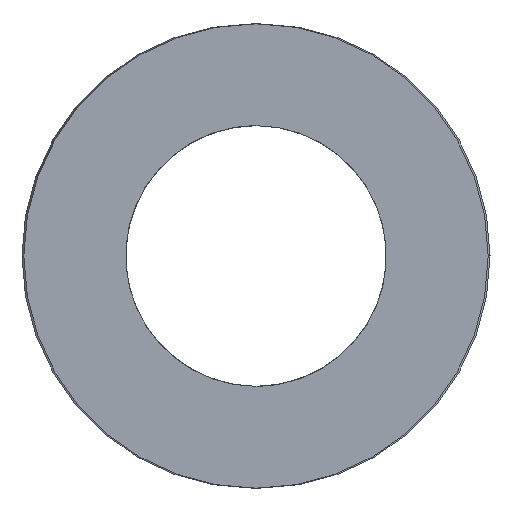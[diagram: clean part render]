
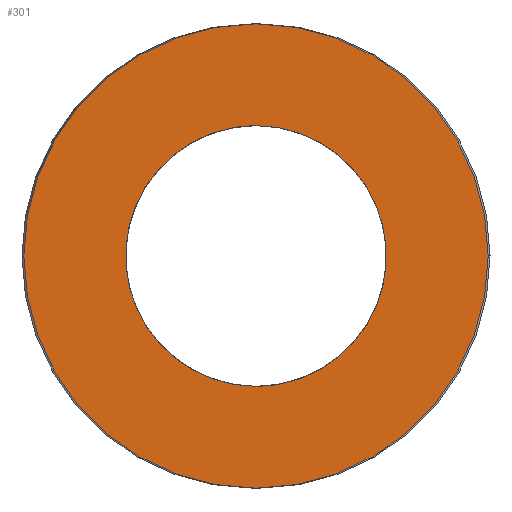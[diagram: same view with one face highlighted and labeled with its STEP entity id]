
A CAD part, left-side view. The second image highlights one B-rep face of the part: STEP entity #301.
In plain terms, the highlighted planar face has unit normal (-1, 0, 0).
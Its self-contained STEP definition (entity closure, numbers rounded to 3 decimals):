
#63=CARTESIAN_POINT('Vertex',(0.,15.5,0.)) ;
#77=CARTESIAN_POINT('Vertex',(0.,-15.5,0.)) ;
#80=CARTESIAN_POINT('Axis2P3D Location',(0.,0.,0.)) ;
#97=CARTESIAN_POINT('Axis2P3D Location',(0.,0.,0.)) ;
#232=CARTESIAN_POINT('Axis2P3D Location',(0.,7.75,0.)) ;
#242=CARTESIAN_POINT('Control Point',(0.,0.,-8.7)) ;
#243=CARTESIAN_POINT('Control Point',(0.,0.867,-8.7)) ;
#244=CARTESIAN_POINT('Control Point',(0.,1.734,-8.592)) ;
#245=CARTESIAN_POINT('Control Point',(0.,2.583,-8.376)) ;
#246=CARTESIAN_POINT('Control Point',(0.,4.209,-7.737)) ;
#247=CARTESIAN_POINT('Control Point',(0.,5.629,-6.719)) ;
#248=CARTESIAN_POINT('Control Point',(0.,6.272,-6.123)) ;
#249=CARTESIAN_POINT('Control Point',(0.,7.395,-4.785)) ;
#250=CARTESIAN_POINT('Control Point',(0.,8.156,-3.211)) ;
#251=CARTESIAN_POINT('Control Point',(0.,8.436,-2.381)) ;
#252=CARTESIAN_POINT('Control Point',(0.,8.783,-0.669)) ;
#253=CARTESIAN_POINT('Control Point',(0.,8.699,1.077)) ;
#254=CARTESIAN_POINT('Control Point',(0.,8.548,1.94)) ;
#255=CARTESIAN_POINT('Control Point',(0.,8.034,3.61)) ;
#256=CARTESIAN_POINT('Control Point',(0.,7.127,5.103)) ;
#257=CARTESIAN_POINT('Control Point',(0.,6.581,5.789)) ;
#258=CARTESIAN_POINT('Control Point',(0.,5.332,7.011)) ;
#259=CARTESIAN_POINT('Control Point',(0.,3.821,7.888)) ;
#260=CARTESIAN_POINT('Control Point',(0.,3.015,8.231)) ;
#261=CARTESIAN_POINT('Control Point',(0.,1.918,8.541)) ;
#262=CARTESIAN_POINT('Control Point',(0.,0.793,8.67)) ;
#263=CARTESIAN_POINT('Control Point',(0.,0.529,8.69)) ;
#264=CARTESIAN_POINT('Control Point',(0.,0.264,8.7)) ;
#265=CARTESIAN_POINT('Control Point',(0.,0.,8.7)) ;
#266=CARTESIAN_POINT('Vertex',(0.,0.,-8.7)) ;
#268=CARTESIAN_POINT('Vertex',(0.,0.,8.7)) ;
#272=CARTESIAN_POINT('Control Point',(0.,0.,8.7)) ;
#273=CARTESIAN_POINT('Control Point',(0.,-0.867,8.7)) ;
#274=CARTESIAN_POINT('Control Point',(0.,-1.734,8.592)) ;
#275=CARTESIAN_POINT('Control Point',(0.,-2.583,8.376)) ;
#276=CARTESIAN_POINT('Control Point',(0.,-4.209,7.737)) ;
#277=CARTESIAN_POINT('Control Point',(0.,-5.629,6.719)) ;
#278=CARTESIAN_POINT('Control Point',(0.,-6.272,6.123)) ;
#279=CARTESIAN_POINT('Control Point',(0.,-7.395,4.785)) ;
#280=CARTESIAN_POINT('Control Point',(0.,-8.156,3.211)) ;
#281=CARTESIAN_POINT('Control Point',(0.,-8.436,2.381)) ;
#282=CARTESIAN_POINT('Control Point',(0.,-8.783,0.669)) ;
#283=CARTESIAN_POINT('Control Point',(0.,-8.699,-1.077)) ;
#284=CARTESIAN_POINT('Control Point',(0.,-8.548,-1.94)) ;
#285=CARTESIAN_POINT('Control Point',(0.,-8.034,-3.61)) ;
#286=CARTESIAN_POINT('Control Point',(0.,-7.127,-5.103)) ;
#287=CARTESIAN_POINT('Control Point',(0.,-6.581,-5.789)) ;
#288=CARTESIAN_POINT('Control Point',(0.,-5.332,-7.011)) ;
#289=CARTESIAN_POINT('Control Point',(0.,-3.821,-7.888)) ;
#290=CARTESIAN_POINT('Control Point',(0.,-3.015,-8.231)) ;
#291=CARTESIAN_POINT('Control Point',(0.,-1.918,-8.541)) ;
#292=CARTESIAN_POINT('Control Point',(0.,-0.793,-8.67)) ;
#293=CARTESIAN_POINT('Control Point',(0.,-0.529,-8.69)) ;
#294=CARTESIAN_POINT('Control Point',(0.,-0.264,-8.7)) ;
#295=CARTESIAN_POINT('Control Point',(0.,0.,-8.7)) ;
#81=DIRECTION('Axis2P3D Direction',(1.,-0.,0.)) ;
#98=DIRECTION('Axis2P3D Direction',(1.,-0.,0.)) ;
#233=DIRECTION('Axis2P3D Direction',(-1.,0.,0.)) ;
#234=DIRECTION('Axis2P3D XDirection',(0.,1.,0.)) ;
#82=AXIS2_PLACEMENT_3D('Circle Axis2P3D',#80,#81,$) ;
#99=AXIS2_PLACEMENT_3D('Circle Axis2P3D',#97,#98,$) ;
#235=AXIS2_PLACEMENT_3D('Plane Axis2P3D',#232,#233,#234) ;
#238=ORIENTED_EDGE('',*,*,#84,.T.) ;
#239=ORIENTED_EDGE('',*,*,#101,.T.) ;
#298=ORIENTED_EDGE('',*,*,#270,.T.) ;
#299=ORIENTED_EDGE('',*,*,#296,.T.) ;
#300=FACE_BOUND('',#297,.T.) ;
#301=ADVANCED_FACE('392-B32-139',(#240,#300),#236,.T.) ;
#241=B_SPLINE_CURVE_WITH_KNOTS('',5,(#242,#243,#244,#245,#246,#247,#248,#249,#250,#251,#252,#253,#254,#255,#256,#257,#258,#259,#260,#261,#262,#263,#264,#265),.UNSPECIFIED.,.F.,.U.,(6,3,3,3,3,3,3,6),(0.,6.131,12.261,18.392,24.522,30.653,36.783,38.652),.UNSPECIFIED.) ;
#271=B_SPLINE_CURVE_WITH_KNOTS('',5,(#272,#273,#274,#275,#276,#277,#278,#279,#280,#281,#282,#283,#284,#285,#286,#287,#288,#289,#290,#291,#292,#293,#294,#295),.UNSPECIFIED.,.F.,.U.,(6,3,3,3,3,3,3,6),(0.,6.131,12.261,18.392,24.522,30.653,36.783,38.652),.UNSPECIFIED.) ;
#83=CIRCLE('generated circle',#82,15.5) ;
#100=CIRCLE('generated circle',#99,15.5) ;
#84=EDGE_CURVE('',#64,#78,#83,.F.) ;
#101=EDGE_CURVE('',#78,#64,#100,.F.) ;
#270=EDGE_CURVE('',#267,#269,#241,.T.) ;
#296=EDGE_CURVE('',#269,#267,#271,.T.) ;
#237=EDGE_LOOP('',(#238,#239)) ;
#297=EDGE_LOOP('',(#298,#299)) ;
#240=FACE_OUTER_BOUND('',#237,.T.) ;
#236=PLANE('Plane',#235) ;
#64=VERTEX_POINT('',#63) ;
#78=VERTEX_POINT('',#77) ;
#267=VERTEX_POINT('',#266) ;
#269=VERTEX_POINT('',#268) ;
